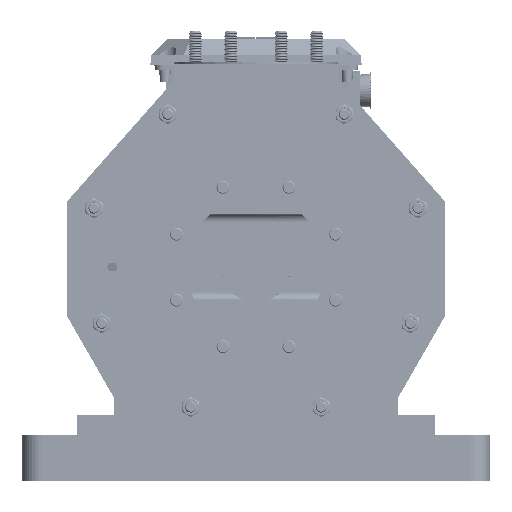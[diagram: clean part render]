
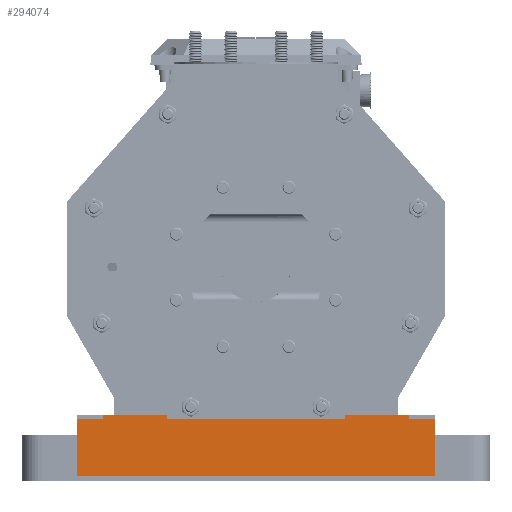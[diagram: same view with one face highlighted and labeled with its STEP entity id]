
A CAD part, front view. The second image highlights one B-rep face of the part: STEP entity #294074.
In plain terms, the highlighted planar face has unit normal (0, -1, 0).
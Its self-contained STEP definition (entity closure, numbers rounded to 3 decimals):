
#292620=CARTESIAN_POINT('',(-186.1,17.0,-170.0));
#292621=VERTEX_POINT('',#292620);
#292638=CARTESIAN_POINT('',(-186.1,17.0,-175.0));
#292639=VERTEX_POINT('',#292638);
#292646=CARTESIAN_POINT('',(-186.1,17.0,-175.0));
#292647=DIRECTION('',(0.0,0.0,1.0));
#292648=VECTOR('',#292647,5.0);
#292649=LINE('',#292646,#292648);
#292650=EDGE_CURVE('',#292639,#292621,#292649,.T.);
#292691=CARTESIAN_POINT('',(-108.1,17.0,-170.0));
#292692=VERTEX_POINT('',#292691);
#292699=CARTESIAN_POINT('',(-108.1,17.0,-175.0));
#292700=VERTEX_POINT('',#292699);
#292701=CARTESIAN_POINT('',(-108.1,17.0,-175.0));
#292702=DIRECTION('',(0.0,0.0,1.0));
#292703=VECTOR('',#292702,5.0);
#292704=LINE('',#292701,#292703);
#292705=EDGE_CURVE('',#292700,#292692,#292704,.T.);
#292722=CARTESIAN_POINT('',(-108.1,17.0,-170.0));
#292723=DIRECTION('',(-1.0,0.0,0.0));
#292724=VECTOR('',#292723,78.0);
#292725=LINE('',#292722,#292724);
#292726=EDGE_CURVE('',#292692,#292621,#292725,.T.);
#292787=CARTESIAN_POINT('',(186.1,17.0,-170.0));
#292788=VERTEX_POINT('',#292787);
#292795=CARTESIAN_POINT('',(186.1,17.0,-175.0));
#292796=VERTEX_POINT('',#292795);
#292797=CARTESIAN_POINT('',(186.1,17.0,-175.0));
#292798=DIRECTION('',(0.0,0.0,1.0));
#292799=VECTOR('',#292798,5.0);
#292800=LINE('',#292797,#292799);
#292801=EDGE_CURVE('',#292796,#292788,#292800,.T.);
#292818=CARTESIAN_POINT('',(108.1,17.0,-170.0));
#292819=VERTEX_POINT('',#292818);
#292827=CARTESIAN_POINT('',(108.1,17.0,-175.0));
#292828=VERTEX_POINT('',#292827);
#292835=CARTESIAN_POINT('',(108.1,17.0,-175.0));
#292836=DIRECTION('',(0.0,0.0,1.0));
#292837=VECTOR('',#292836,5.0);
#292838=LINE('',#292835,#292837);
#292839=EDGE_CURVE('',#292828,#292819,#292838,.T.);
#292851=CARTESIAN_POINT('',(186.1,17.0,-170.0));
#292852=DIRECTION('',(-1.0,0.0,0.0));
#292853=VECTOR('',#292852,78.0);
#292854=LINE('',#292851,#292853);
#292855=EDGE_CURVE('',#292788,#292819,#292854,.T.);
#292877=CARTESIAN_POINT('',(108.1,17.0,-175.0));
#292878=DIRECTION('',(-1.0,0.0,0.0));
#292879=VECTOR('',#292878,216.2);
#292880=LINE('',#292877,#292879);
#292881=EDGE_CURVE('',#292828,#292700,#292880,.T.);
#292886=CARTESIAN_POINT('',(217.5,17.,-175.0));
#292887=VERTEX_POINT('',#292886);
#292888=CARTESIAN_POINT('',(217.5,17.,-175.0));
#292889=DIRECTION('',(-1.0,0.0,0.0));
#292890=VECTOR('',#292889,31.4);
#292891=LINE('',#292888,#292890);
#292892=EDGE_CURVE('',#292887,#292796,#292891,.T.);
#292910=CARTESIAN_POINT('',(-217.5,17.,-175.0));
#292911=VERTEX_POINT('',#292910);
#292918=CARTESIAN_POINT('',(-186.1,17.0,-175.0));
#292919=DIRECTION('',(-1.0,0.0,0.0));
#292920=VECTOR('',#292919,31.4);
#292921=LINE('',#292918,#292920);
#292922=EDGE_CURVE('',#292639,#292911,#292921,.T.);
#293970=CARTESIAN_POINT('',(217.5,17.,-245.0));
#293971=VERTEX_POINT('',#293970);
#293978=CARTESIAN_POINT('',(-217.5,17.,-245.0));
#293979=VERTEX_POINT('',#293978);
#293980=CARTESIAN_POINT('',(-217.5,17.,-245.0));
#293981=DIRECTION('',(1.0,0.0,0.0));
#293982=VECTOR('',#293981,435.0);
#293983=LINE('',#293980,#293982);
#293984=EDGE_CURVE('',#293979,#293971,#293983,.T.);
#294045=CARTESIAN_POINT('',(217.5,17.,-250.0));
#294046=DIRECTION('',(0.0,-1.0,0.0));
#294047=DIRECTION('',(0.0,0.0,-1.0));
#294048=AXIS2_PLACEMENT_3D('',#294045,#294046,#294047);
#294049=PLANE('',#294048);
#294050=ORIENTED_EDGE('',*,*,#293984,.T.);
#294051=CARTESIAN_POINT('',(217.5,17.,-245.0));
#294052=DIRECTION('',(0.0,0.0,1.0));
#294053=VECTOR('',#294052,70.0);
#294054=LINE('',#294051,#294053);
#294055=EDGE_CURVE('',#293971,#292887,#294054,.T.);
#294056=ORIENTED_EDGE('',*,*,#294055,.T.);
#294057=ORIENTED_EDGE('',*,*,#292892,.T.);
#294058=ORIENTED_EDGE('',*,*,#292801,.T.);
#294059=ORIENTED_EDGE('',*,*,#292855,.T.);
#294060=ORIENTED_EDGE('',*,*,#292839,.F.);
#294061=ORIENTED_EDGE('',*,*,#292881,.T.);
#294062=ORIENTED_EDGE('',*,*,#292705,.T.);
#294063=ORIENTED_EDGE('',*,*,#292726,.T.);
#294064=ORIENTED_EDGE('',*,*,#292650,.F.);
#294065=ORIENTED_EDGE('',*,*,#292922,.T.);
#294066=CARTESIAN_POINT('',(-217.5,17.,-245.0));
#294067=DIRECTION('',(0.0,0.0,1.0));
#294068=VECTOR('',#294067,70.0);
#294069=LINE('',#294066,#294068);
#294070=EDGE_CURVE('',#293979,#292911,#294069,.T.);
#294071=ORIENTED_EDGE('',*,*,#294070,.F.);
#294072=EDGE_LOOP('',(#294050,#294056,#294057,#294058,#294059,#294060,#294061,#294062,#294063,#294064,#294065,#294071));
#294073=FACE_OUTER_BOUND('',#294072,.T.);
#294074=ADVANCED_FACE('',(#294073),#294049,.T.);
